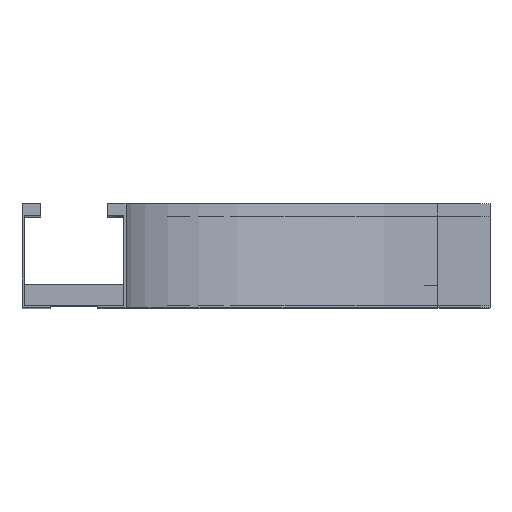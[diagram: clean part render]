
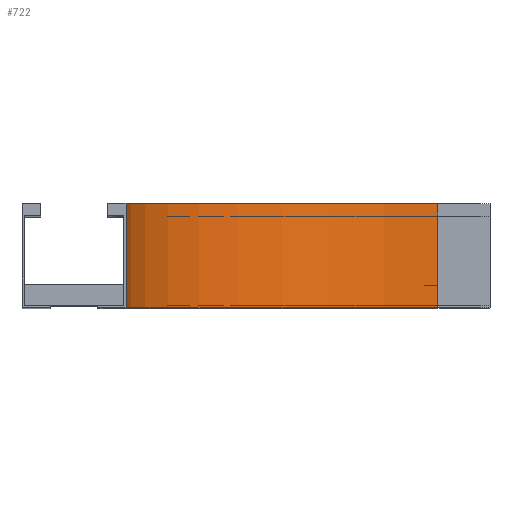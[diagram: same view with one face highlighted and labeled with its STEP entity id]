
A CAD part, top view. The second image highlights one B-rep face of the part: STEP entity #722.
In plain terms, the highlighted cylindrical face has radius 300 mm (diameter 600 mm), a partial arc.
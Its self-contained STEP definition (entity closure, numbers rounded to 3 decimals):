
#57 = DIRECTION ( 'NONE',  ( 0., -1., 0. ) ) ;
#110 = CARTESIAN_POINT ( 'NONE',  ( 300., 100., -50. ) ) ;
#111 = EDGE_LOOP ( 'NONE', ( #906, #454, #1448, #1325 ) ) ;
#163 = VERTEX_POINT ( 'NONE', #1453 ) ;
#166 = VERTEX_POINT ( 'NONE', #486 ) ;
#192 = CARTESIAN_POINT ( 'NONE',  ( 0., 0., -50. ) ) ;
#209 = CARTESIAN_POINT ( 'NONE',  ( 300., 0., -50. ) ) ;
#366 = CYLINDRICAL_SURFACE ( 'NONE', #768, 300. ) ;
#438 = DIRECTION ( 'NONE',  ( 0., 1., 0. ) ) ;
#454 = ORIENTED_EDGE ( 'NONE', *, *, #1023, .F. ) ;
#481 = DIRECTION ( 'NONE',  ( 0., 0., -1. ) ) ;
#482 = CARTESIAN_POINT ( 'NONE',  ( 300., 0., -350. ) ) ;
#486 = CARTESIAN_POINT ( 'NONE',  ( 300., 100., -350. ) ) ;
#493 = AXIS2_PLACEMENT_3D ( 'NONE', #110, #878, #1658 ) ;
#565 = VERTEX_POINT ( 'NONE', #723 ) ;
#567 = EDGE_CURVE ( 'NONE', #1049, #163, #1490, .T. ) ;
#582 = VECTOR ( 'NONE', #438, 1000. ) ;
#680 = AXIS2_PLACEMENT_3D ( 'NONE', #209, #57, #1105 ) ;
#722 = ADVANCED_FACE ( 'NONE', ( #1558 ), #366, .F. ) ;
#723 = CARTESIAN_POINT ( 'NONE',  ( 0., 100., -50. ) ) ;
#750 = LINE ( 'NONE', #482, #861 ) ;
#768 = AXIS2_PLACEMENT_3D ( 'NONE', #1138, #1003, #481 ) ;
#811 = LINE ( 'NONE', #192, #582 ) ;
#861 = VECTOR ( 'NONE', #1011, 1000. ) ;
#878 = DIRECTION ( 'NONE',  ( 0., -1., 0. ) ) ;
#906 = ORIENTED_EDGE ( 'NONE', *, *, #1091, .F. ) ;
#973 = CARTESIAN_POINT ( 'NONE',  ( 0., 0., -50. ) ) ;
#1003 = DIRECTION ( 'NONE',  ( 0., -1., 0. ) ) ;
#1011 = DIRECTION ( 'NONE',  ( 0., 1., 0. ) ) ;
#1023 = EDGE_CURVE ( 'NONE', #1049, #565, #811, .T. ) ;
#1049 = VERTEX_POINT ( 'NONE', #973 ) ;
#1091 = EDGE_CURVE ( 'NONE', #565, #166, #1605, .T. ) ;
#1105 = DIRECTION ( 'NONE',  ( -1., 0., 0. ) ) ;
#1138 = CARTESIAN_POINT ( 'NONE',  ( 300., 0., -50. ) ) ;
#1182 = EDGE_CURVE ( 'NONE', #163, #166, #750, .T. ) ;
#1325 = ORIENTED_EDGE ( 'NONE', *, *, #1182, .T. ) ;
#1448 = ORIENTED_EDGE ( 'NONE', *, *, #567, .T. ) ;
#1453 = CARTESIAN_POINT ( 'NONE',  ( 300., 0., -350. ) ) ;
#1490 = CIRCLE ( 'NONE', #680, 300. ) ;
#1558 = FACE_OUTER_BOUND ( 'NONE', #111, .T. ) ;
#1605 = CIRCLE ( 'NONE', #493, 300. ) ;
#1658 = DIRECTION ( 'NONE',  ( -1., 0., 0. ) ) ;
